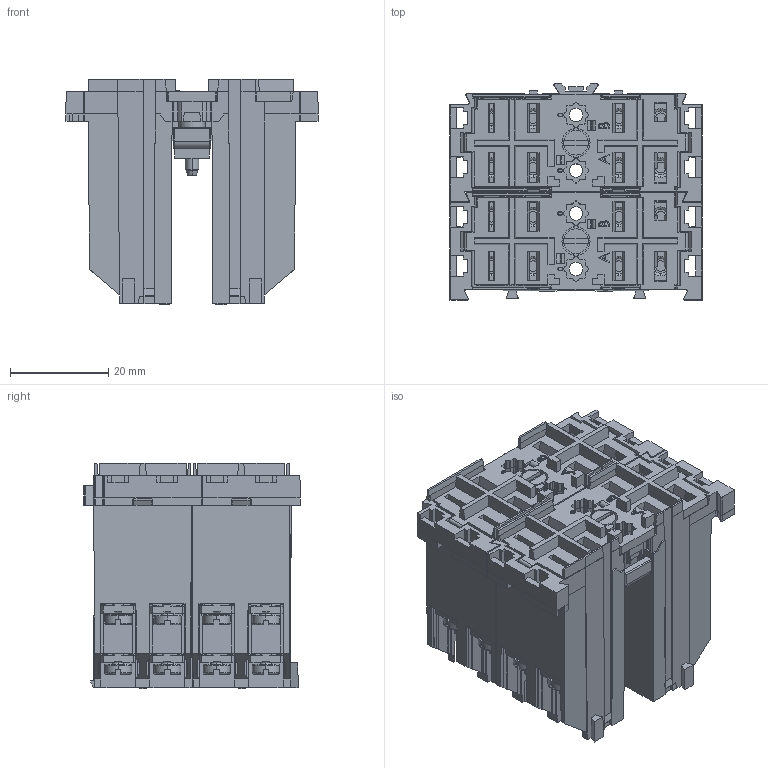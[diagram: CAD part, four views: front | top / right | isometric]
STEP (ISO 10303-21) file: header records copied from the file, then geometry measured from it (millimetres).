
FILE_DESCRIPTION (( 'STEP AP203' ), '1' );
FILE_NAME ('702220005 Base F TR OP.STEP', '2018-04-16T13:13:04', ( 'arteche' ), ( '' ), 'SwSTEP 2.0', 'SolidWorks 2017', '' );
FILE_SCHEMA (( 'CONFIG_CONTROL_DESIGN' ));
Length unit declared in the file: millimetre
Products named in the file (12): 418641502_C BASE TR SUPERIOR PLUS_BASE TR SUPERIOR PLUS; 584010045 TUERCA CUADRADA 7X7X2 M3_TUERCA CUADRADA 7X7X2 M.3; 578609059_F Tornillo con arandela cautiva OP; 702220005 Base F TR OP; 584010243_C TUERCA RECTANGULAR 7x5x25 M3; 527500292_A PINZA TR CORTA OP; 527500391 PINZA TR LARGA OP; BORRAR XXXXXXXXX ALMA BASE D TR2C OP; 418691994_D BASE F TR (MS) OP; 567533344 SOPORTE FIJACION BASES TRASERAS PLUS_SOPORTE FIJACION BASES TRASERAS PLUS; 418641601_A BASE TR INFERIOR PLUS; 270620248 TORNILLO CILINDRICO A M3x15 DIN-84 ZN
Assembly tree (23 placements, depth 5):
  702220005 Base F TR OP
    418691994_D BASE F TR (MS) OP
      BORRAR XXXXXXXXX ALMA BASE D TR2C OP  x2
        418641601_A BASE TR INFERIOR PLUS
        418641502_C BASE TR SUPERIOR PLUS_BASE TR SUPERIOR PLUS
        527500292_A PINZA TR CORTA OP
          578609059_F Tornillo con arandela cautiva OP
          584010243_C TUERCA RECTANGULAR 7x5x25 M3
        527500391 PINZA TR LARGA OP
          578609059_F Tornillo con arandela cautiva OP
          584010243_C TUERCA RECTANGULAR 7x5x25 M3
    567533344 SOPORTE FIJACION BASES TRASERAS PLUS_SOPORTE FIJACION BASES TRASERAS PLUS  x2
    270620248 TORNILLO CILINDRICO A M3x15 DIN-84 ZN  x2
    584010045 TUERCA CUADRADA 7X7X2 M3_TUERCA CUADRADA 7X7X2 M.3  x2
Bounding box: 51.2 x 43.91 x 45.7 mm (x, y, z)
Volume: 30229.4 mm3; surface area: 52538.1 mm2
Topology: 58 solids, 58 shells, 4518 faces, 12374 edges, 7826 vertices
Faces by surface type: plane 3394, cylinder 654, cone 144, sphere 128, torus 100, bspline 98
Entity records: 53701 total; most frequent: CARTESIAN_POINT 12298, ORIENTED_EDGE 8798, DIRECTION 7487, EDGE_CURVE 4399, LINE 3873, VECTOR 3873, VERTEX_POINT 2856, AXIS2_PLACEMENT_3D 1807
